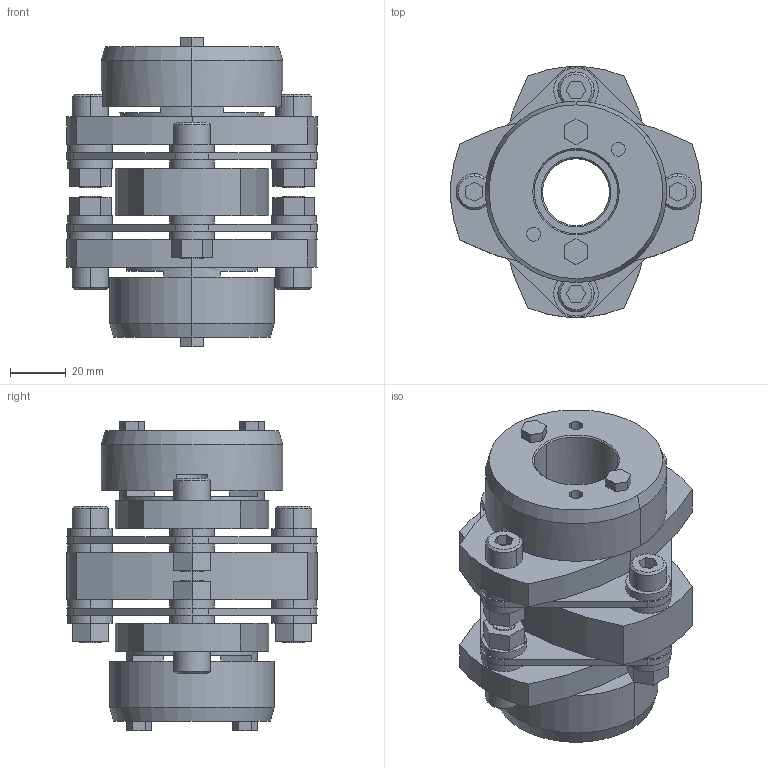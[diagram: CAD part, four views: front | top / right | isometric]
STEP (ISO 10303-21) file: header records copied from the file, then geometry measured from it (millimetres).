
FILE_DESCRIPTION((''),'2;1');
FILE_NAME('LCD-90T7-24×30.stp','2015-11-01T19:27:56',(''),(''),'AutoCAD STEP 2000i','AutoCAD 2000i',', , ');
FILE_SCHEMA(('CONFIG_CONTROL_DESIGN'));
Length unit declared in the file: millimetre
Products named in the file (8): LCD-90T7-25×30; 忣兜1; LC90T7-T030; LC90T7-T025-1; LC90T7-T025; LC90T7-T019-1; LC90T7-T019; LCD90-ITA
Assembly tree (7 placements, depth 2):
  LCD-90T7-25×30
    忣兜1
    LC90T7-T030
    LC90T7-T025-1
    LC90T7-T025
    LC90T7-T019-1
    LC90T7-T019
    LCD90-ITA
Bounding box: 90 x 89.94 x 111 mm (x, y, z)
Volume: 273349.1 mm3; surface area: 74404.8 mm2
Topology: 1 solids, 1 shells, 310 faces, 756 edges, 496 vertices
Faces by surface type: plane 164, cylinder 122, cone 24
Entity records: 9401 total; most frequent: DIRECTION 1680, CARTESIAN_POINT 1570, ORIENTED_EDGE 1512, EDGE_CURVE 756, AXIS2_PLACEMENT_3D 606, VERTEX_POINT 496, VECTOR 468, LINE 468
